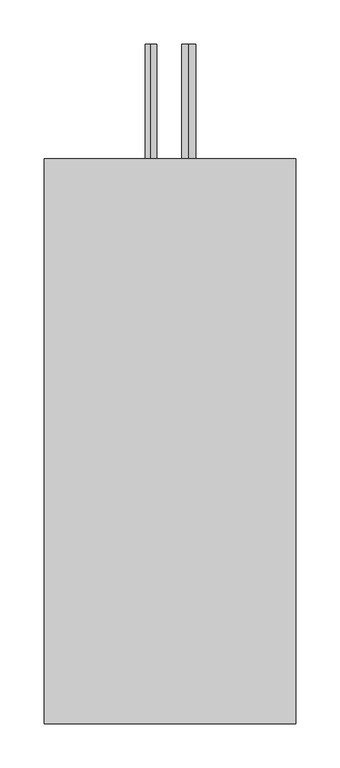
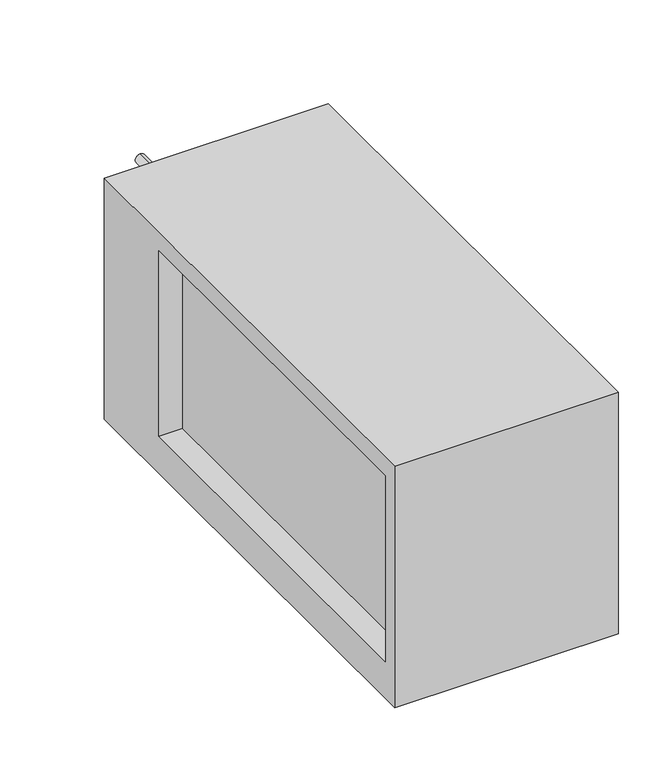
"""IFC4 building model written with IfcOpenShell, lengths in millimetres: proxy geometry, СВ_ВоздухоохладительФреоновый_КанальныйПрямоугольный_200-1000_SPC-F : SPC-F-500x250-L."""

import ifcopenshell
import ifcopenshell.guid

model = None  # the IFC model being written
_history = None  # IfcOwnerHistory: only IFC2X3 demands one
_inside = {}  # id of a spatial element -> (the spatial element, [elements in it])
_under = {}  # id of a project, library or spatial element -> (it, [spatial elements below it])
_declared = {}  # id of a project -> (the project, [libraries it declares])
_typed = {}  # id of a type object -> (the type object, [elements of that type])
_made_of = {}  # id of a material, layer set ... -> (it, [elements and type objects made of it])


def new_model(schema):
    """Start an empty IFC model of exactly this schema.

    Asked for "IFC4X3", IfcOpenShell would pick the latest addendum, in which some entities
    have other attributes; the version numbers below select the first issue.
    IFC2X3 requires an IfcOwnerHistory on every rooted entity: one is made here for all.
    """
    global model, _history
    if schema == "IFC4X3":
        model = ifcopenshell.file(schema_version=(4, 3, 0, 0))
    else:
        model = ifcopenshell.file(schema=schema)
    _inside.clear()
    _under.clear()
    _declared.clear()
    _typed.clear()
    _made_of.clear()
    _history = None
    if model.schema == "IFC2X3":
        org = make("IfcOrganization", Name="unknown")
        user = make(
            "IfcPersonAndOrganization",
            ThePerson=make("IfcPerson", FamilyName="unknown"),
            TheOrganization=org,
        )
        app = make(
            "IfcApplication",
            ApplicationDeveloper=org,
            Version="unknown",
            ApplicationFullName="unknown",
            ApplicationIdentifier="unknown",
        )
        _history = make(
            "IfcOwnerHistory",
            OwningUser=user,
            OwningApplication=app,
            ChangeAction="ADDED",
            CreationDate=0,
        )
    return model


def make(cls, **values):
    """One entity of the class cls with the attributes given. An attribute that is None is left unset."""
    return model.create_entity(
        cls, **{name: value for name, value in values.items() if value is not None}
    )


def rooted(cls, **values):
    """An entity with a GlobalId (a new one), such as an element, a storey or a relation."""
    return make(cls, GlobalId=ifcopenshell.guid.new(), OwnerHistory=_history, **values)


def si_unit(unit_type, name, prefix=None):
    """IfcSIUnit, for example si_unit("LENGTHUNIT", "METRE", prefix="MILLI")."""
    return make("IfcSIUnit", UnitType=unit_type, Prefix=prefix, Name=name)


def assignment(units):
    """IfcUnitAssignment: the units of a project."""
    return None if units is None else make("IfcUnitAssignment", Units=units)


def point(xyz):
    """IfcCartesianPoint."""
    return None if xyz is None else make("IfcCartesianPoint", Coordinates=xyz)


def direction(xyz):
    """IfcDirection."""
    return None if xyz is None else make("IfcDirection", DirectionRatios=xyz)


def frame(location, z_axis=None, x_axis=None):
    """IfcAxis2Placement3D, a coordinate frame: its origin and axes. An axis left out is left unset."""
    return make(
        "IfcAxis2Placement3D",
        Location=point(location),
        Axis=direction(z_axis),
        RefDirection=direction(x_axis),
    )


def frame_2d(location, x_axis=None):
    """IfcAxis2Placement2D, a coordinate frame in the plane: its origin and x axis."""
    return make(
        "IfcAxis2Placement2D", Location=point(location), RefDirection=direction(x_axis)
    )


def origin():
    """The frame at (0, 0, 0) with its axes left unset."""
    return frame((0.0, 0.0, 0.0))


def place(relative_to, where):
    """IfcLocalPlacement: puts the frame where relative to a parent placement (None: the world)."""
    return make(
        "IfcLocalPlacement", PlacementRelTo=relative_to, RelativePlacement=where
    )


def context(
    kind, dimensions, precision=None, world=None, true_north=None, identifier=None
):
    """IfcGeometricRepresentationContext, for example the 3D "Model" context."""
    return make(
        "IfcGeometricRepresentationContext",
        ContextIdentifier=identifier,
        ContextType=kind,
        CoordinateSpaceDimension=dimensions,
        Precision=precision,
        WorldCoordinateSystem=world,
        TrueNorth=true_north,
    )


def project(units=None, contexts=None):
    """IfcProject with its units and contexts."""
    return rooted(
        "IfcProject",
        Name="project",
        RepresentationContexts=contexts,
        UnitsInContext=assignment(units),
    )


def spatial(cls, under=None, at=None, **own):
    """A site, building, storey or space (cls), placed at a placement, below another one or the project."""
    s = rooted(cls, ObjectPlacement=at, **own)
    if under is not None:
        _under.setdefault(under.id(), (under, []))[1].append(s)
    return s


def polyline(points):
    """IfcPolyline through the points."""
    return make("IfcPolyline", Points=[point(p) for p in points])


def circle_curve(where, radius):
    """IfcCircle in the frame where."""
    return make("IfcCircle", Position=where, Radius=radius)


def trimmed(basis, trim1, trim2, sense, master):
    """IfcTrimmedCurve: the piece of a basis curve between two trims."""
    return make(
        "IfcTrimmedCurve",
        BasisCurve=basis,
        Trim1=trim1,
        Trim2=trim2,
        SenseAgreement=sense,
        MasterRepresentation=master,
    )


def segment(curve, same_sense, transition):
    """IfcCompositeCurveSegment."""
    return make(
        "IfcCompositeCurveSegment",
        Transition=transition,
        SameSense=same_sense,
        ParentCurve=curve,
    )


def composite_curve(segments, self_intersect=None):
    """IfcCompositeCurve: segments joined end to end."""
    return make("IfcCompositeCurve", Segments=segments, SelfIntersect=self_intersect)


def outline(outer, holes=None, kind="AREA"):
    """IfcArbitraryClosedProfileDef: a profile drawn as a closed curve; with holes, ...WithVoids."""
    if holes is None:
        return make("IfcArbitraryClosedProfileDef", ProfileType=kind, OuterCurve=outer)
    return make(
        "IfcArbitraryProfileDefWithVoids",
        ProfileType=kind,
        OuterCurve=outer,
        InnerCurves=holes,
    )


def extrude(swept, where, along, depth):
    """IfcExtrudedAreaSolid: the profile swept, set in the frame where, extruded along a direction by depth."""
    return make(
        "IfcExtrudedAreaSolid",
        SweptArea=swept,
        Position=where,
        ExtrudedDirection=direction(along),
        Depth=depth,
    )


def shape(context_of_items, identifier, shape_type, items):
    """IfcShapeRepresentation: the items that make up one representation, for example the "Body"."""
    return make(
        "IfcShapeRepresentation",
        ContextOfItems=context_of_items,
        RepresentationIdentifier=identifier,
        RepresentationType=shape_type,
        Items=items,
    )


def source(mapping_origin, context_of_items, identifier, shape_type, items):
    """IfcRepresentationMap: a shape defined once, which mapped items show again and again."""
    return make(
        "IfcRepresentationMap",
        MappingOrigin=mapping_origin,
        MappedRepresentation=shape(context_of_items, identifier, shape_type, items),
    )


def transform(
    local_origin,
    x_axis=None,
    y_axis=None,
    z_axis=None,
    scale=None,
    scale2=None,
    scale3=None,
    uniform=True,
):
    """IfcCartesianTransformationOperator3D, or its non-uniform kind. x_axis, y_axis, z_axis: its Axis1, 2, 3."""
    if uniform:
        return make(
            "IfcCartesianTransformationOperator3D",
            Axis1=direction(x_axis),
            Axis2=direction(y_axis),
            LocalOrigin=point(local_origin),
            Scale=scale,
            Axis3=direction(z_axis),
        )
    return make(
        "IfcCartesianTransformationOperator3DnonUniform",
        Axis1=direction(x_axis),
        Axis2=direction(y_axis),
        LocalOrigin=point(local_origin),
        Scale=scale,
        Axis3=direction(z_axis),
        Scale2=scale2,
        Scale3=scale3,
    )


def mapped(mapping_source, mapping_target):
    """IfcMappedItem: shows the shape of a source again, moved by a transform."""
    return make(
        "IfcMappedItem", MappingSource=mapping_source, MappingTarget=mapping_target
    )


def made_of(thing, what):
    """Note that an element or type object is made of a material, layer set ...; save() writes the relation."""
    if what is not None:
        _made_of.setdefault(what.id(), (what, []))[1].append(thing)
    return thing


def element(
    cls,
    number,
    at=None,
    inside=None,
    cuts=None,
    type_object=None,
    material=None,
    context=None,
    identifier="Body",
    shape_type=None,
    held_by="IfcProductDefinitionShape",
    body=None,
    shapes=None,
    **own,
):
    """One element of the class cls, such as IfcWall. Its Tag is "e" and its number.

    at: its placement. inside: the storey or other place that contains it. cuts: it is an
    opening in that element (IfcRelVoidsElement). A single representation is given by context,
    identifier, shape_type and body (its items); several are given by shapes. held_by: the class
    of the entity that holds the representations. save() writes the other relations.
    """
    e = rooted(cls, Tag="e%d" % number, ObjectPlacement=at, **own)
    if body is not None:
        shapes = [shape(context, identifier, shape_type, body)]
    if shapes is not None:
        e.Representation = make(held_by, Representations=shapes)
    if inside is not None:
        _inside.setdefault(inside.id(), (inside, []))[1].append(e)
    if cuts is not None:
        rooted(
            "IfcRelVoidsElement", RelatingBuildingElement=cuts, RelatedOpeningElement=e
        )
    if type_object is not None:
        _typed.setdefault(type_object.id(), (type_object, []))[1].append(e)
    return made_of(e, material)


def aggregate(whole, parts):
    """IfcRelAggregates: a whole, such as a stair, and the parts it consists of."""
    return rooted("IfcRelAggregates", RelatingObject=whole, RelatedObjects=parts)


def save(model, path):
    """Write the relations noted so far, then the file.

    IfcRelAggregates (storeys below a building ...), IfcRelContainedInSpatialStructure (elements
    in a storey), IfcRelDefinesByType, IfcRelAssociatesMaterial and IfcRelDeclares: one each for
    every whole, place, type object, material and project.
    """
    for whole, parts in _under.values():
        aggregate(whole, parts)
    for where, things in _inside.values():
        rooted(
            "IfcRelContainedInSpatialStructure",
            RelatedElements=things,
            RelatingStructure=where,
        )
    for kind, things in _typed.values():
        rooted("IfcRelDefinesByType", RelatedObjects=things, RelatingType=kind)
    for what, things in _made_of.values():
        rooted("IfcRelAssociatesMaterial", RelatedObjects=things, RelatingMaterial=what)
    for by, libraries in _declared.values():
        rooted("IfcRelDeclares", RelatingContext=by, RelatedDefinitions=libraries)
    model.write(path)


def mechanical_equipment_fce2b66e(model_context):
    return source(origin(), model_context, "Body", "SweptSolid", [
        extrude(outline(polyline([(-270.0, -175.0), (-270.0, 150.0), (370.0, 150.0), (370.0, -175.0), (-270.0, -175.0)]), holes=[polyline([(-250.0, 125.0), (-250.0, -125.0), (250.0, -125.0), (250.0, 125.0), (-250.0, 125.0)])]), frame((-142.5, 0.0, 0.0), z_axis=(1.0, 0.0, 0.0), x_axis=(0.0, 1.0, 0.0)), (0.0, 0.0, 1.0), 285.0),
        extrude(outline(composite_curve([segment(trimmed(circle_curve(frame_2d((-75.0, 21.5)), 7.95), [point((-82.95, 21.5))], [point((-67.05, 21.5))], False, "CARTESIAN"), True, "CONTINUOUS"), segment(trimmed(circle_curve(frame_2d((-75.0, 21.5)), 7.95), [point((-67.05, 21.5))], [point((-82.95, 21.5))], False, "CARTESIAN"), True, "CONTINUOUS")], self_intersect=False)), frame((0.0, 370.0, 0.0), z_axis=(0.0, 1.0, 0.0), x_axis=(0.0, 0.0, 1.0)), (0.0, 0.0, 1.0), 130.0),
        extrude(outline(composite_curve([segment(trimmed(circle_curve(frame_2d((55.0, -21.5)), 6.35), [point((48.65, -21.5))], [point((61.35, -21.5))], False, "CARTESIAN"), True, "CONTINUOUS"), segment(trimmed(circle_curve(frame_2d((55.0, -21.5)), 6.35), [point((61.35, -21.5))], [point((48.65, -21.5))], False, "CARTESIAN"), True, "CONTINUOUS")], self_intersect=False)), frame((0.0, 370.0, 0.0), z_axis=(0.0, 1.0, 0.0), x_axis=(0.0, 0.0, 1.0)), (0.0, 0.0, 1.0), 130.0),
        extrude(outline(composite_curve([segment(trimmed(circle_curve(frame_2d((0.0, 330.0)), 11.0), [point((-11.0, 330.0))], [point((11.0, 330.0))], False, "CARTESIAN"), True, "CONTINUOUS"), segment(trimmed(circle_curve(frame_2d((0.0, 330.0)), 11.0), [point((11.0, 330.0))], [point((-11.0, 330.0))], False, "CARTESIAN"), True, "CONTINUOUS")], self_intersect=False)), frame((0.0, 0.0, -195.0), z_axis=(0.0, 0.0, 1.0), x_axis=(1.0, 0.0, 0.0)), (0.0, 0.0, 1.0), 20.0),
        extrude(outline(polyline([(112.5, 250.0), (112.5, -250.0), (-112.5, -250.0), (-112.5, 250.0), (112.5, 250.0)])), frame((0.0, 0.0, -125.0), z_axis=(0.0, 0.0, 1.0), x_axis=(1.0, 0.0, 0.0)), (0.0, 0.0, 1.0), 250.0),
    ])


if __name__ == "__main__":
    model = new_model("IFC4")
    model_context = context("Model", 3, world=origin())
    ifc_project = project(units=[si_unit("LENGTHUNIT", "METRE", prefix="MILLI")], contexts=[model_context])
    site = spatial("IfcSite", under=ifc_project)
    building = spatial("IfcBuilding", under=site)
    placement = place(None, origin())
    mechanical_equipment_shape = mechanical_equipment_fce2b66e(model_context)
    element("IfcBuildingElementProxy", 1, Name="СВ_ВоздухоохладительФреоновый_КанальныйПрямоугольный_200-1000_SPC-F : SPC-F-500x250-L", ObjectType="СВ_ВоздухоохладительФреоновый_КанальныйПрямоугольный_200-1000_SPC-F : SPC-F-500x250-L", at=placement, inside=building, context=model_context, shape_type="MappedRepresentation", body=[
        mapped(mechanical_equipment_shape, transform((0.0, 0.0, 0.0), x_axis=(1.0, 0.0, 0.0), y_axis=(0.0, 1.0, 0.0), z_axis=(0.0, 0.0, 1.0))),
    ])
    save(model, "model.ifc")
